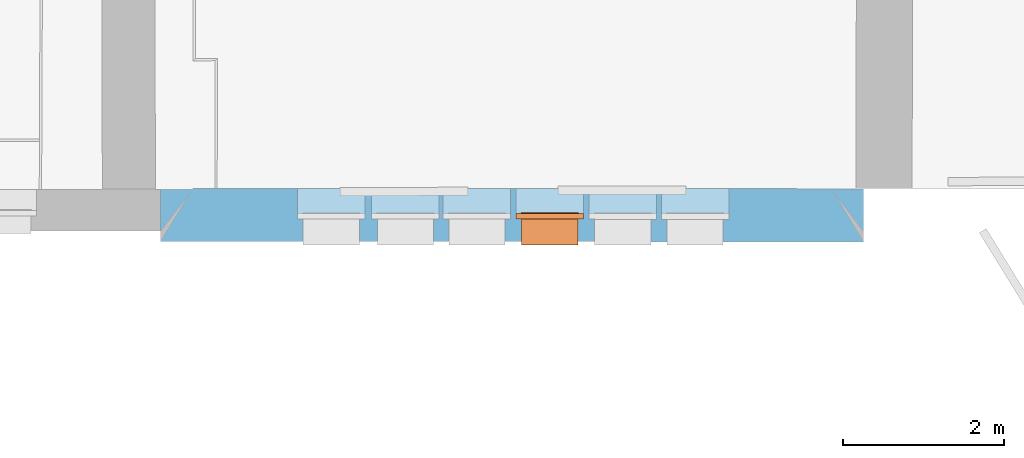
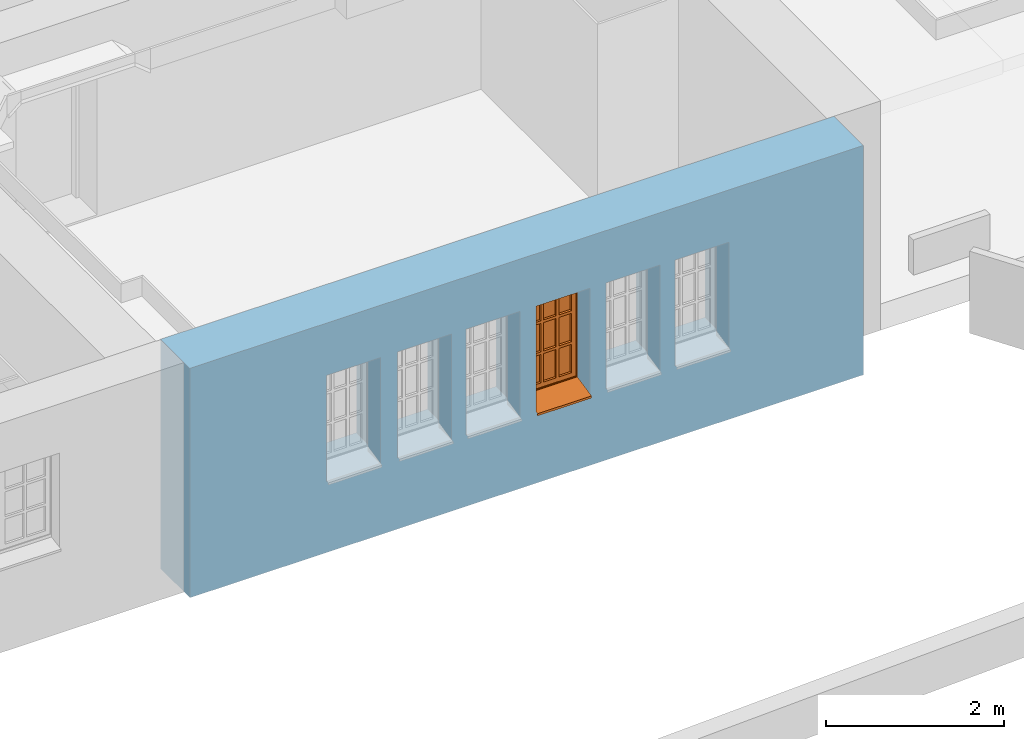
# One storey, part 84 of 196: 1 proxy, 6 openings, plus 1 element that does not belong to this part.
"""IFC2X3 building model written with IfcOpenShell, lengths in metres."""

from ifc_helpers import new_model, entity, si_unit, converted_unit, derived_unit, money_unit, direction, frame, origin_with_axes, origin_2d_with_axis, place, context, subcontext, project, spatial, polyline, rectangle, outline, extrude, boolean, open_shell, faceted_brep, surface_model, material, type_object, element, fill, save


model = new_model("IFC2X3")

# Units and contexts
model_context = context("Model", 3, precision=1e-05, world=origin_with_axes(), true_north=direction((0.0, 1.0)))
body_context = subcontext(model_context, "Body", "Model", "MODEL_VIEW")
ifc_project = project(units=[si_unit("LENGTHUNIT", "METRE"), si_unit("AREAUNIT", "SQUARE_METRE"), si_unit("VOLUMEUNIT", "CUBIC_METRE"), converted_unit("PLANEANGLEUNIT", "DEGREE", entity("IfcPlaneAngleMeasure", 0.0174532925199), si_unit("PLANEANGLEUNIT", "RADIAN"), dimensions=[0, 0, 0, 0, 0, 0, 0]), money_unit("EUR"), converted_unit("TIMEUNIT", "Year", entity("IfcTimeMeasure", 31556926.0), si_unit("TIMEUNIT", "SECOND"), dimensions=[0, 0, 1, 0, 0, 0, 0]), si_unit("MASSUNIT", "GRAM", prefix="KILO"), si_unit("THERMODYNAMICTEMPERATUREUNIT", "DEGREE_CELSIUS"), si_unit("LUMINOUSINTENSITYUNIT", "LUMEN"), si_unit("ENERGYUNIT", "JOULE", prefix="MEGA"), derived_unit("THERMALCONDUCTANCEUNIT", [(si_unit("POWERUNIT", "WATT"), 1), (si_unit("LENGTHUNIT", "METRE"), -1), (si_unit("THERMODYNAMICTEMPERATUREUNIT", "KELVIN"), -1)]), derived_unit("SPECIFICHEATCAPACITYUNIT", [(si_unit("ENERGYUNIT", "JOULE"), 1), (si_unit("MASSUNIT", "GRAM", prefix="KILO"), -1), (si_unit("THERMODYNAMICTEMPERATUREUNIT", "KELVIN"), -1)]), derived_unit("MASSDENSITYUNIT", [(si_unit("MASSUNIT", "GRAM", prefix="KILO"), 1), (si_unit("VOLUMEUNIT", "CUBIC_METRE"), -1)])], contexts=[model_context])

# Site, building, storey
site_placement = place(None, origin_with_axes())
site = spatial("IfcSite", under=ifc_project, at=site_placement, Name="Gelände", CompositionType="ELEMENT")
building_placement = place(site_placement, origin_with_axes())
building = spatial("IfcBuilding", under=site, at=building_placement, Name="Gebäude", CompositionType="ELEMENT")
storey_placement = place(building_placement, frame((0.0, 0.0, -3.0), z_axis=(0.0, 0.0, 1.0), x_axis=(1.0, 0.0, 0.0)))
storey = spatial("IfcBuildingStorey", under=building, at=storey_placement, Name="KELLERGESCHOSS", CompositionType="ELEMENT", Elevation=-3.0)

# Wall, openings, proxy
ifc_material = material(Name="05_ALLGEMEIN - TRAGENDE BAUTEILE")
wall_type = type_object("IfcWallType", Name="05_ALLGEMEIN - TRAGENDE BAUTEILE 660", PredefinedType="ELEMENTEDWALL")
wall_placement = place(storey_placement, frame((3.68030708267, 9.80941916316, -0.36), z_axis=(0.0, 0.0, 1.0), x_axis=(0.999999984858, -0.000174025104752, 0.0)))
wall = element("IfcWall", 1, at=wall_placement, inside=storey, type_object=wall_type, material=ifc_material, Name="Wand-032", ObjectType="ELEMENTEDWALL", context=body_context, shape_type="CSG", body=[
    boolean("DIFFERENCE", extrude(outline(polyline([(0.0, 0.0), (8.74672447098, 0.0), (8.74672447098, 0.66), (0.0, 0.66), (0.0, 0.0)])), origin_with_axes(), (0.0, 0.0, 1.0), 3.15), faceted_brep([(8.36400803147, 0.66, 3.15), (8.36400803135, 0.66, 3.065), (8.74672447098, 0.66, 3.065), (8.74672447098, 0.66, 0.0), (0.0, 0.66, 0.0), (0.0, 0.66, 3.15), (0.396377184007, 0.651638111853, 3.15), (0.396377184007, 0.651638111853, 0.0), (8.3467354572, 0.659981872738, 0.0), (8.3467354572, 0.659981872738, 3.065), (8.74672447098, 0.0, 3.065), (8.74672447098, 0.0, 0.0), (0.0, 0.0, 0.0), (0.0, 0.0, 3.15)], [[[0, 1, 2, 3, 4, 5]], [[1, 0, 6, 7, 8, 9]], [[10, 2, 1, 9]], [[10, 11, 3, 2]], [[7, 12, 4, 3, 11, 8]], [[12, 13, 5, 4]], [[6, 0, 5, 13]], [[6, 13, 12, 7]], [[11, 10, 9, 8]]])),
])
opening_1_placement = place(wall_placement, frame((6.65087656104, 0.0, 0.977921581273), z_axis=(0.0, 0.0, 1.0), x_axis=(1.0, 0.0, 0.0)))
element("IfcOpeningElement", 2, at=opening_1_placement, cuts=wall, Name="Fenster-015", context=body_context, shape_type="SweptSolid", body=[
    extrude(rectangle(XDim=0.840207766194, YDim=1.52470991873, at=origin_2d_with_axis()), frame((0.0, 0.28, 0.762354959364), z_axis=(0.0, -1.0, 0.0), x_axis=(1.0, 0.0, 0.0)), (0.0, 0.0, -1.0), 1.04),
    extrude(rectangle(XDim=0.700207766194, YDim=1.45470991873, at=origin_2d_with_axis()), frame((0.0, 0.28, 0.727354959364), z_axis=(0.0, 1.0, 0.0), x_axis=(1.0, 0.0, 0.0)), (0.0, 0.0, -1.0), 0.94),
])
opening_2_placement = place(wall_placement, frame((5.75227144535, 0.0, 0.977921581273), z_axis=(0.0, 0.0, 1.0), x_axis=(1.0, 0.0, 0.0)))
element("IfcOpeningElement", 3, at=opening_2_placement, cuts=wall, Name="Fenster-015", context=body_context, shape_type="SweptSolid", body=[
    extrude(rectangle(XDim=0.840207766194, YDim=1.52470991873, at=origin_2d_with_axis()), frame((0.0, 0.28, 0.762354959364), z_axis=(0.0, -1.0, 0.0), x_axis=(1.0, 0.0, 0.0)), (0.0, 0.0, -1.0), 1.04),
    extrude(rectangle(XDim=0.700207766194, YDim=1.45470991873, at=origin_2d_with_axis()), frame((0.0, 0.28, 0.727354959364), z_axis=(0.0, 1.0, 0.0), x_axis=(1.0, 0.0, 0.0)), (0.0, 0.0, -1.0), 0.94),
])
opening_3_placement = place(wall_placement, frame((2.12414616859, 0.0, 0.977921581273), z_axis=(0.0, 0.0, 1.0), x_axis=(1.0, 0.0, 0.0)))
element("IfcOpeningElement", 4, at=opening_3_placement, cuts=wall, Name="Fenster-015", context=body_context, shape_type="SweptSolid", body=[
    extrude(rectangle(XDim=0.840207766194, YDim=1.52470991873, at=origin_2d_with_axis()), frame((0.0, 0.28, 0.762354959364), z_axis=(0.0, -1.0, 0.0), x_axis=(1.0, 0.0, 0.0)), (0.0, 0.0, -1.0), 1.04),
    extrude(rectangle(XDim=0.700207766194, YDim=1.45470991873, at=origin_2d_with_axis()), frame((0.0, 0.28, 0.727354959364), z_axis=(0.0, 1.0, 0.0), x_axis=(1.0, 0.0, 0.0)), (0.0, 0.0, -1.0), 0.94),
])
opening_4_placement = place(wall_placement, frame((3.04781651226, 0.0, 0.977921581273), z_axis=(0.0, 0.0, 1.0), x_axis=(1.0, 0.0, 0.0)))
element("IfcOpeningElement", 5, at=opening_4_placement, cuts=wall, Name="Fenster-015", context=body_context, shape_type="SweptSolid", body=[
    extrude(rectangle(XDim=0.840207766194, YDim=1.52470991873, at=origin_2d_with_axis()), frame((0.0, 0.28, 0.762354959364), z_axis=(0.0, -1.0, 0.0), x_axis=(1.0, 0.0, 0.0)), (0.0, 0.0, -1.0), 1.04),
    extrude(rectangle(XDim=0.700207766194, YDim=1.45470991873, at=origin_2d_with_axis()), frame((0.0, 0.28, 0.727354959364), z_axis=(0.0, 1.0, 0.0), x_axis=(1.0, 0.0, 0.0)), (0.0, 0.0, -1.0), 0.94),
])
opening_5_placement = place(wall_placement, frame((3.9368208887, 0.0, 0.977921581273), z_axis=(0.0, 0.0, 1.0), x_axis=(1.0, 0.0, 0.0)))
element("IfcOpeningElement", 6, at=opening_5_placement, cuts=wall, Name="Fenster-015", context=body_context, shape_type="SweptSolid", body=[
    extrude(rectangle(XDim=0.840207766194, YDim=1.52470991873, at=origin_2d_with_axis()), frame((0.0, 0.28, 0.762354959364), z_axis=(0.0, -1.0, 0.0), x_axis=(1.0, 0.0, 0.0)), (0.0, 0.0, -1.0), 1.04),
    extrude(rectangle(XDim=0.700207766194, YDim=1.45470991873, at=origin_2d_with_axis()), frame((0.0, 0.28, 0.727354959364), z_axis=(0.0, 1.0, 0.0), x_axis=(1.0, 0.0, 0.0)), (0.0, 0.0, -1.0), 0.94),
])
opening_6_placement = place(wall_placement, frame((4.8431156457, 0.0, 0.977921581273), z_axis=(0.0, 0.0, 1.0), x_axis=(1.0, 0.0, 0.0)))
opening_6 = element("IfcOpeningElement", 7, at=opening_6_placement, cuts=wall, Name="Fenster-015", context=body_context, shape_type="SweptSolid", body=[
    extrude(rectangle(XDim=0.840207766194, YDim=1.52470991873, at=origin_2d_with_axis()), frame((0.0, 0.28, 0.762354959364), z_axis=(0.0, -1.0, 0.0), x_axis=(1.0, 0.0, 0.0)), (0.0, 0.0, -1.0), 1.04),
    extrude(rectangle(XDim=0.700207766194, YDim=1.45470991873, at=origin_2d_with_axis()), frame((0.0, 0.28, 0.727354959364), z_axis=(0.0, 1.0, 0.0), x_axis=(1.0, 0.0, 0.0)), (0.0, 0.0, -1.0), 0.94),
])
building_element_proxy_type = type_object("IfcBuildingElementProxyType", Name="1-Flügelfenster 25", PredefinedType="NOTDEFINED")
proxy_placement = place(opening_6_placement, frame((-0.420103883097, 0.0, 0.0), z_axis=(0.0, 0.0, 1.0), x_axis=(1.0, 0.0, 0.0)))
proxy = element("IfcBuildingElementProxy", 8, at=proxy_placement, inside=storey, type_object=building_element_proxy_type, Name="Fenster-015", context=body_context, shape_type="SurfaceModel", body=[
    surface_model("IfcShellBasedSurfaceModel", [(0.07, 0.279, 0.08), (0.07, 0.279, 0.07), (0.770207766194, 0.279, 0.07), (0.770207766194, 0.279, 0.08), (0.07, -0.04, 0.00142857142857), (0.770207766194, -0.04, 0.00142857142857), (0.07, -0.04, -0.0285714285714), (0.770207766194, -0.04, -0.0285714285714), (0.07, -0.025, -0.0135714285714), (0.770207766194, -0.025, -0.0135714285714)], [open_shell([[[0, 1, 2, 3]], [[1, 4, 5, 2]], [[4, 6, 7, 5]], [[6, 8, 9, 7]]])]),
    faceted_brep([(0.07, 0.28, 0.0689771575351), (0.07, 0.0, 0.00878906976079), (0.770207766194, 0.0, 0.00878906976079), (0.770207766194, 0.28, 0.0689771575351), (0.07, 0.28, 0.0), (0.07, 0.0, 0.0), (0.770207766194, 0.0, 0.0), (0.770207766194, 0.28, 0.0)], [[[0, 1, 2, 3]], [[0, 4, 5, 1]], [[1, 5, 6, 2]], [[3, 2, 6, 7]], [[4, 0, 3, 7]], [[5, 4, 7, 6]]]),
    faceted_brep([(0.0, 0.28, 0.0), (0.0, 0.35, 0.0), (0.08, 0.35, 0.08), (0.08, 0.28, 0.08), (0.0, 0.28, 1.52470991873), (0.0, 0.35, 1.52470991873), (0.08, 0.35, 1.44470991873), (0.08, 0.28, 1.44470991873)], [[[0, 1, 2, 3]], [[4, 5, 1, 0]], [[1, 5, 6, 2]], [[3, 2, 6, 7]], [[0, 3, 7, 4]], [[7, 6, 5, 4]]]),
    faceted_brep([(0.840207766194, 0.28, 0.0), (0.840207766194, 0.35, 0.0), (0.840207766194, 0.35, 1.52470991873), (0.840207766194, 0.28, 1.52470991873), (0.760207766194, 0.28, 0.08), (0.760207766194, 0.35, 0.08), (0.760207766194, 0.35, 1.44470991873), (0.760207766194, 0.28, 1.44470991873)], [[[0, 1, 2, 3]], [[4, 5, 1, 0]], [[1, 5, 6, 2]], [[3, 2, 6, 7]], [[0, 3, 7, 4]], [[7, 6, 5, 4]]]),
    faceted_brep([(0.0, 0.28, 0.0), (0.0, 0.35, 0.0), (0.840207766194, 0.35, 0.0), (0.840207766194, 0.28, 0.0), (0.08, 0.28, 0.08), (0.08, 0.35, 0.08), (0.420103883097, 0.35, 0.08), (0.760207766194, 0.35, 0.08), (0.760207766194, 0.28, 0.08), (0.420103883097, 0.28, 0.08)], [[[0, 1, 2, 3]], [[4, 5, 1, 0]], [[1, 5, 6, 7, 2]], [[3, 2, 7, 8]], [[0, 3, 8, 9, 4]], [[9, 6, 5, 4]], [[8, 7, 6, 9]]]),
    faceted_brep([(0.0, 0.28, 1.52470991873), (0.0, 0.35, 1.52470991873), (0.08, 0.35, 1.44470991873), (0.08, 0.28, 1.44470991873), (0.840207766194, 0.28, 1.52470991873), (0.840207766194, 0.35, 1.52470991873), (0.760207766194, 0.35, 1.44470991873), (0.420103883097, 0.35, 1.44470991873), (0.420103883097, 0.28, 1.44470991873), (0.760207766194, 0.28, 1.44470991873)], [[[0, 1, 2, 3]], [[4, 5, 1, 0]], [[1, 5, 6, 7, 2]], [[3, 2, 7, 8]], [[0, 3, 8, 9, 4]], [[9, 6, 5, 4]], [[8, 7, 6, 9]]]),
    faceted_brep([(0.06, 0.35, 0.06), (0.06, 0.363, 0.06), (0.14, 0.363, 0.14), (0.14, 0.35, 0.14), (0.06, 0.35, 1.46470991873), (0.06, 0.363, 1.46470991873), (0.14, 0.363, 1.38470991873), (0.14, 0.35, 1.38470991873)], [[[0, 1, 2, 3]], [[4, 5, 1, 0]], [[1, 5, 6, 2]], [[3, 2, 6, 7]], [[0, 3, 7, 4]], [[7, 6, 5, 4]]]),
    faceted_brep([(0.780207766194, 0.35, 0.06), (0.700207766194, 0.35, 0.14), (0.700207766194, 0.363, 0.14), (0.780207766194, 0.363, 0.06), (0.780207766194, 0.35, 1.46470991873), (0.700207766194, 0.35, 1.38470991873), (0.700207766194, 0.363, 1.38470991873), (0.780207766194, 0.363, 1.46470991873)], [[[0, 1, 2, 3]], [[0, 4, 5, 1]], [[1, 5, 6, 2]], [[3, 2, 6, 7]], [[4, 0, 3, 7]], [[5, 4, 7, 6]]]),
    faceted_brep([(0.06, 0.35, 0.06), (0.06, 0.363, 0.06), (0.780207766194, 0.363, 0.06), (0.780207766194, 0.35, 0.06), (0.14, 0.35, 0.14), (0.14, 0.363, 0.14), (0.700207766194, 0.363, 0.14), (0.700207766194, 0.35, 0.14)], [[[0, 1, 2, 3]], [[4, 5, 1, 0]], [[1, 5, 6, 2]], [[3, 2, 6, 7]], [[0, 3, 7, 4]], [[7, 6, 5, 4]]]),
    faceted_brep([(0.06, 0.35, 1.46470991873), (0.780207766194, 0.35, 1.46470991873), (0.780207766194, 0.363, 1.46470991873), (0.06, 0.363, 1.46470991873), (0.14, 0.35, 1.38470991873), (0.700207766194, 0.35, 1.38470991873), (0.700207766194, 0.363, 1.38470991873), (0.14, 0.363, 1.38470991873)], [[[0, 1, 2, 3]], [[0, 4, 5, 1]], [[1, 5, 6, 2]], [[3, 2, 6, 7]], [[4, 0, 3, 7]], [[5, 4, 7, 6]]]),
    faceted_brep([(0.08, 0.293, 0.08), (0.08, 0.35, 0.08), (0.14, 0.35, 0.14), (0.14, 0.293, 0.14), (0.08, 0.293, 1.44470991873), (0.08, 0.35, 1.44470991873), (0.14, 0.35, 1.38470991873), (0.14, 0.293, 1.38470991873)], [[[0, 1, 2, 3]], [[4, 5, 1, 0]], [[1, 5, 6, 2]], [[3, 2, 6, 7]], [[0, 3, 7, 4]], [[7, 6, 5, 4]]]),
    faceted_brep([(0.760207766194, 0.293, 0.08), (0.700207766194, 0.293, 0.14), (0.700207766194, 0.35, 0.14), (0.760207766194, 0.35, 0.08), (0.760207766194, 0.293, 1.44470991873), (0.700207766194, 0.293, 1.38470991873), (0.700207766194, 0.35, 1.38470991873), (0.760207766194, 0.35, 1.44470991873)], [[[0, 1, 2, 3]], [[0, 4, 5, 1]], [[1, 5, 6, 2]], [[3, 2, 6, 7]], [[4, 0, 3, 7]], [[5, 4, 7, 6]]]),
    faceted_brep([(0.08, 0.293, 0.08), (0.08, 0.35, 0.08), (0.760207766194, 0.35, 0.08), (0.760207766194, 0.293, 0.08), (0.14, 0.293, 0.14), (0.14, 0.35, 0.14), (0.700207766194, 0.35, 0.14), (0.700207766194, 0.293, 0.14)], [[[0, 1, 2, 3]], [[4, 5, 1, 0]], [[1, 5, 6, 2]], [[3, 2, 6, 7]], [[0, 3, 7, 4]], [[7, 6, 5, 4]]]),
    faceted_brep([(0.08, 0.293, 1.44470991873), (0.760207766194, 0.293, 1.44470991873), (0.760207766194, 0.35, 1.44470991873), (0.08, 0.35, 1.44470991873), (0.14, 0.293, 1.38470991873), (0.700207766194, 0.293, 1.38470991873), (0.700207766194, 0.35, 1.38470991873), (0.14, 0.35, 1.38470991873)], [[[0, 1, 2, 3]], [[0, 4, 5, 1]], [[1, 5, 6, 2]], [[3, 2, 6, 7]], [[4, 0, 3, 7]], [[5, 4, 7, 6]]]),
    faceted_brep([(0.303402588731, 0.293, 0.14), (0.303402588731, 0.328, 0.14), (0.338402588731, 0.328, 0.14), (0.338402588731, 0.293, 0.14), (0.303402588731, 0.293, 1.38470991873), (0.303402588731, 0.328, 1.38470991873), (0.338402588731, 0.328, 1.38470991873), (0.338402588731, 0.293, 1.38470991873)], [[[0, 1, 2, 3]], [[4, 5, 1, 0]], [[1, 5, 6, 2]], [[3, 2, 6, 7]], [[0, 3, 7, 4]], [[7, 6, 5, 4]]]),
    faceted_brep([(0.303402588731, 0.328, 0.14), (0.303402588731, 0.363, 0.14), (0.338402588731, 0.363, 0.14), (0.338402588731, 0.328, 0.14), (0.303402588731, 0.328, 1.38470991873), (0.303402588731, 0.363, 1.38470991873), (0.338402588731, 0.363, 1.38470991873), (0.338402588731, 0.328, 1.38470991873)], [[[0, 1, 2, 3]], [[4, 5, 1, 0]], [[1, 5, 6, 2]], [[3, 2, 6, 7]], [[0, 3, 7, 4]], [[7, 6, 5, 4]]]),
    faceted_brep([(0.501805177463, 0.293, 0.14), (0.501805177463, 0.328, 0.14), (0.536805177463, 0.328, 0.14), (0.536805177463, 0.293, 0.14), (0.501805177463, 0.293, 1.38470991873), (0.501805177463, 0.328, 1.38470991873), (0.536805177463, 0.328, 1.38470991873), (0.536805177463, 0.293, 1.38470991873)], [[[0, 1, 2, 3]], [[4, 5, 1, 0]], [[1, 5, 6, 2]], [[3, 2, 6, 7]], [[0, 3, 7, 4]], [[7, 6, 5, 4]]]),
    faceted_brep([(0.501805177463, 0.328, 0.14), (0.501805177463, 0.363, 0.14), (0.536805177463, 0.363, 0.14), (0.536805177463, 0.328, 0.14), (0.501805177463, 0.328, 1.38470991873), (0.501805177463, 0.363, 1.38470991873), (0.536805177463, 0.363, 1.38470991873), (0.536805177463, 0.328, 1.38470991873)], [[[0, 1, 2, 3]], [[4, 5, 1, 0]], [[1, 5, 6, 2]], [[3, 2, 6, 7]], [[0, 3, 7, 4]], [[7, 6, 5, 4]]]),
    faceted_brep([(0.501805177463, 0.293, 0.531569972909), (0.501805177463, 0.293, 0.566569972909), (0.338402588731, 0.293, 0.566569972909), (0.338402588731, 0.293, 0.531569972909), (0.501805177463, 0.328, 0.566569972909), (0.501805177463, 0.328, 0.531569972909), (0.338402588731, 0.328, 0.566569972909), (0.338402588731, 0.328, 0.531569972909)], [[[0, 1, 2, 3]], [[4, 1, 0, 5]], [[1, 4, 6, 2]], [[2, 6, 7, 3]], [[5, 0, 3, 7]], [[4, 5, 7, 6]]]),
    faceted_brep([(0.14, 0.293, 0.566569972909), (0.14, 0.293, 0.531569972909), (0.303402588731, 0.293, 0.531569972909), (0.303402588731, 0.293, 0.566569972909), (0.14, 0.328, 0.566569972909), (0.14, 0.328, 0.531569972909), (0.303402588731, 0.328, 0.531569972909), (0.303402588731, 0.328, 0.566569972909)], [[[0, 1, 2, 3]], [[1, 0, 4, 5]], [[1, 5, 6, 2]], [[2, 6, 7, 3]], [[4, 0, 3, 7]], [[5, 4, 7, 6]]]),
    faceted_brep([(0.536805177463, 0.328, 0.566569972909), (0.536805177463, 0.293, 0.566569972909), (0.700207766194, 0.293, 0.566569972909), (0.700207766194, 0.328, 0.566569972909), (0.536805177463, 0.293, 0.531569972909), (0.536805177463, 0.328, 0.531569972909), (0.700207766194, 0.293, 0.531569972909), (0.700207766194, 0.328, 0.531569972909)], [[[0, 1, 2, 3]], [[4, 1, 0, 5]], [[1, 4, 6, 2]], [[3, 2, 6, 7]], [[5, 0, 3, 7]], [[4, 5, 7, 6]]]),
    faceted_brep([(0.501805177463, 0.328, 0.531569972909), (0.501805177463, 0.328, 0.566569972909), (0.338402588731, 0.328, 0.566569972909), (0.338402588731, 0.328, 0.531569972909), (0.501805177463, 0.363, 0.566569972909), (0.501805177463, 0.363, 0.531569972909), (0.338402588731, 0.363, 0.566569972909), (0.338402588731, 0.363, 0.531569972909)], [[[0, 1, 2, 3]], [[4, 1, 0, 5]], [[1, 4, 6, 2]], [[2, 6, 7, 3]], [[5, 0, 3, 7]], [[4, 5, 7, 6]]]),
    faceted_brep([(0.14, 0.328, 0.566569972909), (0.14, 0.328, 0.531569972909), (0.303402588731, 0.328, 0.531569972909), (0.303402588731, 0.328, 0.566569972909), (0.14, 0.363, 0.566569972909), (0.14, 0.363, 0.531569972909), (0.303402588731, 0.363, 0.531569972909), (0.303402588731, 0.363, 0.566569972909)], [[[0, 1, 2, 3]], [[1, 0, 4, 5]], [[1, 5, 6, 2]], [[2, 6, 7, 3]], [[4, 0, 3, 7]], [[5, 4, 7, 6]]]),
    faceted_brep([(0.536805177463, 0.363, 0.566569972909), (0.536805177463, 0.328, 0.566569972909), (0.700207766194, 0.328, 0.566569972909), (0.700207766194, 0.363, 0.566569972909), (0.536805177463, 0.328, 0.531569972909), (0.536805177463, 0.363, 0.531569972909), (0.700207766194, 0.328, 0.531569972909), (0.700207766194, 0.363, 0.531569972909)], [[[0, 1, 2, 3]], [[4, 1, 0, 5]], [[1, 4, 6, 2]], [[3, 2, 6, 7]], [[5, 0, 3, 7]], [[4, 5, 7, 6]]]),
    faceted_brep([(0.501805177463, 0.293, 0.958139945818), (0.501805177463, 0.293, 0.993139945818), (0.338402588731, 0.293, 0.993139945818), (0.338402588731, 0.293, 0.958139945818), (0.501805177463, 0.328, 0.993139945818), (0.501805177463, 0.328, 0.958139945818), (0.338402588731, 0.328, 0.993139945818), (0.338402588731, 0.328, 0.958139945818)], [[[0, 1, 2, 3]], [[4, 1, 0, 5]], [[1, 4, 6, 2]], [[2, 6, 7, 3]], [[5, 0, 3, 7]], [[4, 5, 7, 6]]]),
    faceted_brep([(0.14, 0.293, 0.993139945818), (0.14, 0.293, 0.958139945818), (0.303402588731, 0.293, 0.958139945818), (0.303402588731, 0.293, 0.993139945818), (0.14, 0.328, 0.993139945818), (0.14, 0.328, 0.958139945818), (0.303402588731, 0.328, 0.958139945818), (0.303402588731, 0.328, 0.993139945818)], [[[0, 1, 2, 3]], [[1, 0, 4, 5]], [[1, 5, 6, 2]], [[2, 6, 7, 3]], [[4, 0, 3, 7]], [[5, 4, 7, 6]]]),
    faceted_brep([(0.536805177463, 0.328, 0.993139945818), (0.536805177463, 0.293, 0.993139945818), (0.700207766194, 0.293, 0.993139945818), (0.700207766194, 0.328, 0.993139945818), (0.536805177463, 0.293, 0.958139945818), (0.536805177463, 0.328, 0.958139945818), (0.700207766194, 0.293, 0.958139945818), (0.700207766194, 0.328, 0.958139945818)], [[[0, 1, 2, 3]], [[4, 1, 0, 5]], [[1, 4, 6, 2]], [[3, 2, 6, 7]], [[5, 0, 3, 7]], [[4, 5, 7, 6]]]),
    faceted_brep([(0.501805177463, 0.328, 0.958139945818), (0.501805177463, 0.328, 0.993139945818), (0.338402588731, 0.328, 0.993139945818), (0.338402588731, 0.328, 0.958139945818), (0.501805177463, 0.363, 0.993139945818), (0.501805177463, 0.363, 0.958139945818), (0.338402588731, 0.363, 0.993139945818), (0.338402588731, 0.363, 0.958139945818)], [[[0, 1, 2, 3]], [[4, 1, 0, 5]], [[1, 4, 6, 2]], [[2, 6, 7, 3]], [[5, 0, 3, 7]], [[4, 5, 7, 6]]]),
    faceted_brep([(0.14, 0.328, 0.993139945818), (0.14, 0.328, 0.958139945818), (0.303402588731, 0.328, 0.958139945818), (0.303402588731, 0.328, 0.993139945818), (0.14, 0.363, 0.993139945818), (0.14, 0.363, 0.958139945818), (0.303402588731, 0.363, 0.958139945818), (0.303402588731, 0.363, 0.993139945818)], [[[0, 1, 2, 3]], [[1, 0, 4, 5]], [[1, 5, 6, 2]], [[2, 6, 7, 3]], [[4, 0, 3, 7]], [[5, 4, 7, 6]]]),
    faceted_brep([(0.536805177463, 0.363, 0.993139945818), (0.536805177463, 0.328, 0.993139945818), (0.700207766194, 0.328, 0.993139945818), (0.700207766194, 0.363, 0.993139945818), (0.536805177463, 0.328, 0.958139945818), (0.536805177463, 0.363, 0.958139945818), (0.700207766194, 0.328, 0.958139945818), (0.700207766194, 0.363, 0.958139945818)], [[[0, 1, 2, 3]], [[4, 1, 0, 5]], [[1, 4, 6, 2]], [[3, 2, 6, 7]], [[5, 0, 3, 7]], [[4, 5, 7, 6]]]),
    faceted_brep([(0.303402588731, 0.333, 0.958139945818), (0.303402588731, 0.323, 0.958139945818), (0.303402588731, 0.323, 0.566569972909), (0.303402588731, 0.333, 0.566569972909), (0.14, 0.323, 0.958139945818), (0.14, 0.333, 0.958139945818), (0.14, 0.323, 0.566569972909), (0.14, 0.333, 0.566569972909)], [[[0, 1, 2, 3]], [[4, 1, 0, 5]], [[1, 4, 6, 2]], [[2, 6, 7, 3]], [[5, 0, 3, 7]], [[4, 5, 7, 6]]]),
    faceted_brep([(0.700207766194, 0.323, 0.14), (0.700207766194, 0.333, 0.14), (0.700207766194, 0.333, 0.531569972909), (0.700207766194, 0.323, 0.531569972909), (0.536805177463, 0.323, 0.14), (0.536805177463, 0.333, 0.14), (0.536805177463, 0.333, 0.531569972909), (0.536805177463, 0.323, 0.531569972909)], [[[0, 1, 2, 3]], [[0, 4, 5, 1]], [[1, 5, 6, 2]], [[2, 6, 7, 3]], [[4, 0, 3, 7]], [[5, 4, 7, 6]]]),
    faceted_brep([(0.501805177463, 0.323, 0.14), (0.501805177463, 0.333, 0.14), (0.501805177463, 0.333, 0.531569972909), (0.501805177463, 0.323, 0.531569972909), (0.338402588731, 0.333, 0.14), (0.338402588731, 0.323, 0.14), (0.338402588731, 0.333, 0.531569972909), (0.338402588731, 0.323, 0.531569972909)], [[[0, 1, 2, 3]], [[4, 1, 0, 5]], [[1, 4, 6, 2]], [[2, 6, 7, 3]], [[5, 0, 3, 7]], [[4, 5, 7, 6]]]),
    faceted_brep([(0.303402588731, 0.323, 0.14), (0.303402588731, 0.333, 0.14), (0.303402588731, 0.333, 0.531569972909), (0.303402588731, 0.323, 0.531569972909), (0.14, 0.323, 0.14), (0.14, 0.333, 0.14), (0.14, 0.333, 0.531569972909), (0.14, 0.323, 0.531569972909)], [[[0, 1, 2, 3]], [[0, 4, 5, 1]], [[1, 5, 6, 2]], [[2, 6, 7, 3]], [[4, 0, 3, 7]], [[5, 4, 7, 6]]]),
    faceted_brep([(0.700207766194, 0.333, 0.958139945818), (0.700207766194, 0.323, 0.958139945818), (0.700207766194, 0.323, 0.566569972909), (0.700207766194, 0.333, 0.566569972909), (0.536805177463, 0.323, 0.958139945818), (0.536805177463, 0.333, 0.958139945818), (0.536805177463, 0.323, 0.566569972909), (0.536805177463, 0.333, 0.566569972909)], [[[0, 1, 2, 3]], [[4, 1, 0, 5]], [[1, 4, 6, 2]], [[2, 6, 7, 3]], [[5, 0, 3, 7]], [[4, 5, 7, 6]]]),
    faceted_brep([(0.501805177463, 0.333, 0.958139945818), (0.501805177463, 0.323, 0.958139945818), (0.501805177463, 0.323, 0.566569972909), (0.501805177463, 0.333, 0.566569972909), (0.338402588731, 0.323, 0.958139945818), (0.338402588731, 0.333, 0.958139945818), (0.338402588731, 0.323, 0.566569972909), (0.338402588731, 0.333, 0.566569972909)], [[[0, 1, 2, 3]], [[4, 1, 0, 5]], [[1, 4, 6, 2]], [[2, 6, 7, 3]], [[5, 0, 3, 7]], [[4, 5, 7, 6]]]),
    faceted_brep([(0.14, 0.323, 0.993139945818), (0.303402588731, 0.323, 0.993139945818), (0.303402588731, 0.323, 1.38470991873), (0.14, 0.323, 1.38470991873), (0.303402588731, 0.333, 0.993139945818), (0.14, 0.333, 0.993139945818), (0.303402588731, 0.333, 1.38470991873), (0.14, 0.333, 1.38470991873)], [[[0, 1, 2, 3]], [[4, 1, 0, 5]], [[1, 4, 6, 2]], [[2, 6, 7, 3]], [[5, 0, 3, 7]], [[4, 5, 7, 6]]]),
    faceted_brep([(0.536805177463, 0.323, 0.993139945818), (0.700207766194, 0.323, 0.993139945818), (0.700207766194, 0.323, 1.38470991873), (0.536805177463, 0.323, 1.38470991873), (0.700207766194, 0.333, 0.993139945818), (0.536805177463, 0.333, 0.993139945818), (0.700207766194, 0.333, 1.38470991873), (0.536805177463, 0.333, 1.38470991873)], [[[0, 1, 2, 3]], [[4, 1, 0, 5]], [[1, 4, 6, 2]], [[2, 6, 7, 3]], [[5, 0, 3, 7]], [[4, 5, 7, 6]]]),
    faceted_brep([(0.338402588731, 0.323, 0.993139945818), (0.501805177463, 0.323, 0.993139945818), (0.501805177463, 0.323, 1.38470991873), (0.338402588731, 0.323, 1.38470991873), (0.501805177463, 0.333, 0.993139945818), (0.338402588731, 0.333, 0.993139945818), (0.501805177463, 0.333, 1.38470991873), (0.338402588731, 0.333, 1.38470991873)], [[[0, 1, 2, 3]], [[4, 1, 0, 5]], [[1, 4, 6, 2]], [[7, 3, 2, 6]], [[5, 0, 3, 7]], [[4, 5, 7, 6]]]),
])
fill(opening_6, proxy)

save(model, "model.ifc")
